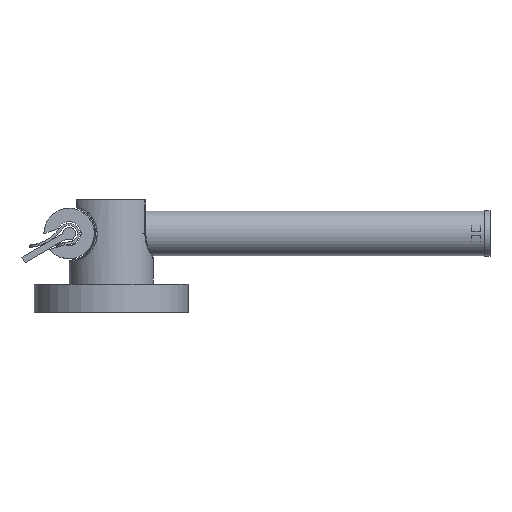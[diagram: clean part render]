
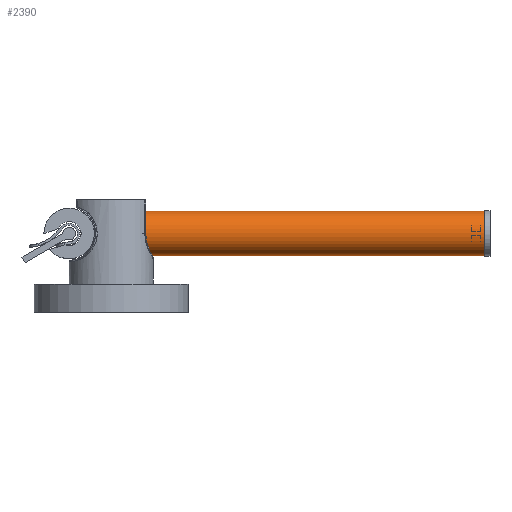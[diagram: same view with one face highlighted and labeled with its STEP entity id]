
A CAD part, left-side view. The second image highlights one B-rep face of the part: STEP entity #2390.
In plain terms, the highlighted cylindrical face has radius 8 mm (diameter 16 mm), a full revolution.
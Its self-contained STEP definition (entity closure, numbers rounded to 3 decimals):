
#208=CYLINDRICAL_SURFACE('',#2630,8.);
#321=FACE_OUTER_BOUND('',#465,.T.);
#465=EDGE_LOOP('',(#2062,#2063,#2064,#2065,#2066,#2067));
#588=CIRCLE('',#2626,8.);
#589=CIRCLE('',#2627,8.);
#592=CIRCLE('',#2631,8.);
#593=CIRCLE('',#2632,8.);
#731=LINE('',#6381,#874);
#874=VECTOR('',#3173,8.);
#1095=VERTEX_POINT('',#6371);
#1096=VERTEX_POINT('',#6372);
#1099=VERTEX_POINT('',#6380);
#1100=VERTEX_POINT('',#6382);
#1427=EDGE_CURVE('',#1095,#1096,#588,.T.);
#1428=EDGE_CURVE('',#1096,#1095,#589,.T.);
#1431=EDGE_CURVE('',#1096,#1099,#731,.T.);
#1432=EDGE_CURVE('',#1100,#1099,#592,.T.);
#1433=EDGE_CURVE('',#1099,#1100,#593,.T.);
#2062=ORIENTED_EDGE('',*,*,#1427,.T.);
#2063=ORIENTED_EDGE('',*,*,#1431,.T.);
#2064=ORIENTED_EDGE('',*,*,#1432,.F.);
#2065=ORIENTED_EDGE('',*,*,#1433,.F.);
#2066=ORIENTED_EDGE('',*,*,#1431,.F.);
#2067=ORIENTED_EDGE('',*,*,#1428,.T.);
#2390=ADVANCED_FACE('',(#321),#208,.T.);
#2626=AXIS2_PLACEMENT_3D('',#6373,#3163,#3164);
#2627=AXIS2_PLACEMENT_3D('',#6374,#3165,#3166);
#2630=AXIS2_PLACEMENT_3D('',#6379,#3171,#3172);
#2631=AXIS2_PLACEMENT_3D('',#6383,#3174,#3175);
#2632=AXIS2_PLACEMENT_3D('',#6384,#3176,#3177);
#3163=DIRECTION('center_axis',(0.,-1.,0.));
#3164=DIRECTION('ref_axis',(-1.,0.,0.));
#3165=DIRECTION('center_axis',(0.,-1.,0.));
#3166=DIRECTION('ref_axis',(-1.,0.,0.));
#3171=DIRECTION('center_axis',(0.,-1.,0.));
#3172=DIRECTION('ref_axis',(-0.998,0.,0.063));
#3173=DIRECTION('',(0.,-1.,0.));
#3174=DIRECTION('center_axis',(0.,-1.,0.));
#3175=DIRECTION('ref_axis',(-1.,0.,0.));
#3176=DIRECTION('center_axis',(0.,-1.,0.));
#3177=DIRECTION('ref_axis',(-1.,0.,0.));
#6371=CARTESIAN_POINT('',(8.,0.,13.1));
#6372=CARTESIAN_POINT('',(7.984,0.,12.598));
#6373=CARTESIAN_POINT('Origin',(0.,0.,13.1));
#6374=CARTESIAN_POINT('Origin',(0.,0.,13.1));
#6379=CARTESIAN_POINT('Origin',(0.,-67.5,13.1));
#6380=CARTESIAN_POINT('',(7.984,-135.,12.598));
#6381=CARTESIAN_POINT('',(7.984,-67.5,12.598));
#6382=CARTESIAN_POINT('',(8.,-135.,13.1));
#6383=CARTESIAN_POINT('Origin',(0.,-135.,13.1));
#6384=CARTESIAN_POINT('Origin',(0.,-135.,13.1));
